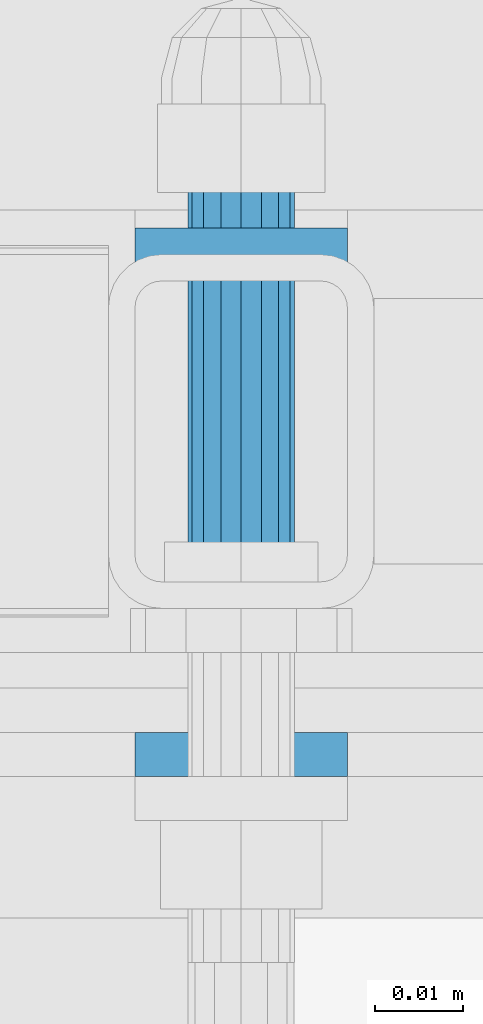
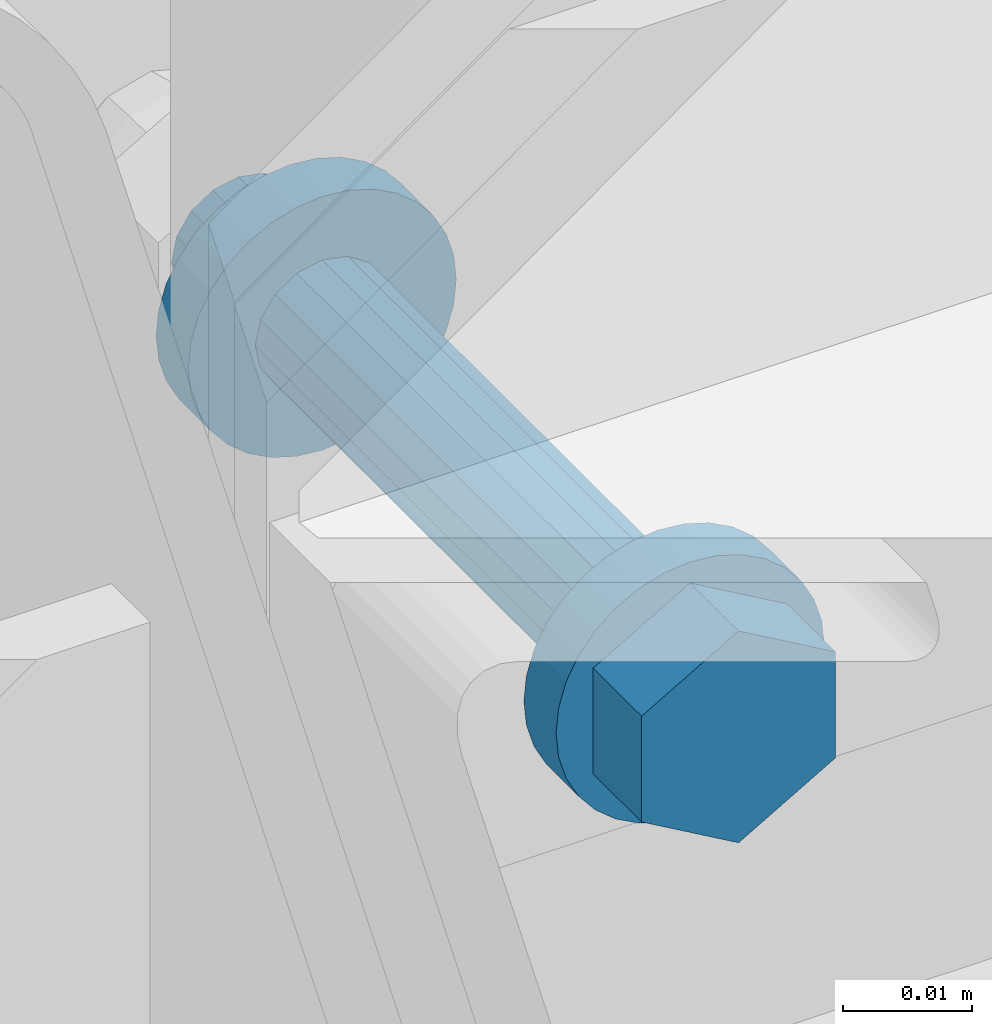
# One storey, part 54 of 116: 1 mechanical fastener.
"""IFC2X3 building model written with IfcOpenShell, lengths in millimetres."""

import ifcopenshell
import ifcopenshell.guid

model = None  # the IFC model being written
_history = None  # IfcOwnerHistory: only IFC2X3 demands one
_inside = {}  # id of a spatial element -> (the spatial element, [elements in it])
_under = {}  # id of a project, library or spatial element -> (it, [spatial elements below it])
_declared = {}  # id of a project -> (the project, [libraries it declares])
_typed = {}  # id of a type object -> (the type object, [elements of that type])
_made_of = {}  # id of a material, layer set ... -> (it, [elements and type objects made of it])


def new_model(schema):
    """Start an empty IFC model of exactly this schema.

    Asked for "IFC4X3", IfcOpenShell would pick the latest addendum, in which some entities
    have other attributes; the version numbers below select the first issue.
    IFC2X3 requires an IfcOwnerHistory on every rooted entity: one is made here for all.
    """
    global model, _history
    if schema == "IFC4X3":
        model = ifcopenshell.file(schema_version=(4, 3, 0, 0))
    else:
        model = ifcopenshell.file(schema=schema)
    _inside.clear()
    _under.clear()
    _declared.clear()
    _typed.clear()
    _made_of.clear()
    _history = None
    if model.schema == "IFC2X3":
        org = make("IfcOrganization", Name="unknown")
        user = make(
            "IfcPersonAndOrganization",
            ThePerson=make("IfcPerson", FamilyName="unknown"),
            TheOrganization=org,
        )
        app = make(
            "IfcApplication",
            ApplicationDeveloper=org,
            Version="unknown",
            ApplicationFullName="unknown",
            ApplicationIdentifier="unknown",
        )
        _history = make(
            "IfcOwnerHistory",
            OwningUser=user,
            OwningApplication=app,
            ChangeAction="ADDED",
            CreationDate=0,
        )
    return model


def make(cls, **values):
    """One entity of the class cls with the attributes given. An attribute that is None is left unset."""
    return model.create_entity(
        cls, **{name: value for name, value in values.items() if value is not None}
    )


def entity(cls, *values):
    """Any entity or typed value of the class cls, its attributes in the order of the schema. None: left unset."""
    e = model.create_entity(cls)
    for i, value in enumerate(values):
        if value is not None:
            e[i] = value
    return e


def rooted(cls, **values):
    """An entity with a GlobalId (a new one), such as an element, a storey or a relation."""
    return make(cls, GlobalId=ifcopenshell.guid.new(), OwnerHistory=_history, **values)


def si_unit(unit_type, name, prefix=None):
    """IfcSIUnit, for example si_unit("LENGTHUNIT", "METRE", prefix="MILLI")."""
    return make("IfcSIUnit", UnitType=unit_type, Prefix=prefix, Name=name)


def converted_unit(unit_type, name, factor, base, dimensions=None, offset=None):
    """IfcConversionBasedUnit, such as the inch: factor (a typed value) times the base unit."""
    return make(
        "IfcConversionBasedUnit"
        if offset is None
        else "IfcConversionBasedUnitWithOffset",
        ConversionOffset=offset,
        Dimensions=None
        if dimensions is None
        else entity("IfcDimensionalExponents", *dimensions),
        UnitType=unit_type,
        Name=name,
        ConversionFactor=make(
            "IfcMeasureWithUnit", ValueComponent=factor, UnitComponent=base
        ),
    )


def assignment(units):
    """IfcUnitAssignment: the units of a project."""
    return None if units is None else make("IfcUnitAssignment", Units=units)


def point(xyz):
    """IfcCartesianPoint."""
    return None if xyz is None else make("IfcCartesianPoint", Coordinates=xyz)


def direction(xyz):
    """IfcDirection."""
    return None if xyz is None else make("IfcDirection", DirectionRatios=xyz)


def frame(location, z_axis=None, x_axis=None):
    """IfcAxis2Placement3D, a coordinate frame: its origin and axes. An axis left out is left unset."""
    return make(
        "IfcAxis2Placement3D",
        Location=point(location),
        Axis=direction(z_axis),
        RefDirection=direction(x_axis),
    )


def origin_with_axes():
    """The frame at (0, 0, 0) with the z axis (0, 0, 1) and the x axis (1, 0, 0) written out."""
    return frame((0.0, 0.0, 0.0), z_axis=(0.0, 0.0, 1.0), x_axis=(1.0, 0.0, 0.0))


def place(relative_to, where):
    """IfcLocalPlacement: puts the frame where relative to a parent placement (None: the world)."""
    return make(
        "IfcLocalPlacement", PlacementRelTo=relative_to, RelativePlacement=where
    )


def context(
    kind, dimensions, precision=None, world=None, true_north=None, identifier=None
):
    """IfcGeometricRepresentationContext, for example the 3D "Model" context."""
    return make(
        "IfcGeometricRepresentationContext",
        ContextIdentifier=identifier,
        ContextType=kind,
        CoordinateSpaceDimension=dimensions,
        Precision=precision,
        WorldCoordinateSystem=world,
        TrueNorth=true_north,
    )


def project(units=None, contexts=None):
    """IfcProject with its units and contexts."""
    return rooted(
        "IfcProject",
        Name="project",
        RepresentationContexts=contexts,
        UnitsInContext=assignment(units),
    )


def spatial(cls, under=None, at=None, **own):
    """A site, building, storey or space (cls), placed at a placement, below another one or the project."""
    s = rooted(cls, ObjectPlacement=at, **own)
    if under is not None:
        _under.setdefault(under.id(), (under, []))[1].append(s)
    return s


def faces_of(points, faces, orient=None, outer=None):
    """IfcFace entities. A face is a list of loops; a loop is a list of indices into points, from 0.

    orient and outer hold one flag for each loop. By default every Orientation is true, the
    first loop of a face is its IfcFaceOuterBound and the others are IfcFaceBound.
    """
    made = []
    for i, loops in enumerate(faces):
        bounds = []
        for j, loop in enumerate(loops):
            is_outer = j == 0 if outer is None else outer[i][j]
            bounds.append(
                make(
                    "IfcFaceOuterBound" if is_outer else "IfcFaceBound",
                    Bound=make("IfcPolyLoop", Polygon=[points[k] for k in loop]),
                    Orientation=True if orient is None else orient[i][j],
                )
            )
        made.append(make("IfcFace", Bounds=bounds))
    return made


def faceted_brep(points, faces, orient=None, outer=None, voids=None):
    """IfcFacetedBrep: a solid bounded by flat faces; with voids (closed shells), ...WithVoids."""
    shared = [point(p) for p in points]
    hull = make("IfcClosedShell", CfsFaces=faces_of(shared, faces, orient, outer))
    if voids is None:
        return make("IfcFacetedBrep", Outer=hull)
    return make(
        "IfcFacetedBrepWithVoids",
        Outer=hull,
        Voids=[
            make(cls, CfsFaces=faces_of(shared, fs, o, b)) for cls, fs, o, b in voids
        ],
    )


def shape(context_of_items, identifier, shape_type, items):
    """IfcShapeRepresentation: the items that make up one representation, for example the "Body"."""
    return make(
        "IfcShapeRepresentation",
        ContextOfItems=context_of_items,
        RepresentationIdentifier=identifier,
        RepresentationType=shape_type,
        Items=items,
    )


def made_of(thing, what):
    """Note that an element or type object is made of a material, layer set ...; save() writes the relation."""
    if what is not None:
        _made_of.setdefault(what.id(), (what, []))[1].append(thing)
    return thing


def element(
    cls,
    number,
    at=None,
    inside=None,
    cuts=None,
    type_object=None,
    material=None,
    context=None,
    identifier="Body",
    shape_type=None,
    held_by="IfcProductDefinitionShape",
    body=None,
    shapes=None,
    **own,
):
    """One element of the class cls, such as IfcWall. Its Tag is "e" and its number.

    at: its placement. inside: the storey or other place that contains it. cuts: it is an
    opening in that element (IfcRelVoidsElement). A single representation is given by context,
    identifier, shape_type and body (its items); several are given by shapes. held_by: the class
    of the entity that holds the representations. save() writes the other relations.
    """
    e = rooted(cls, Tag="e%d" % number, ObjectPlacement=at, **own)
    if body is not None:
        shapes = [shape(context, identifier, shape_type, body)]
    if shapes is not None:
        e.Representation = make(held_by, Representations=shapes)
    if inside is not None:
        _inside.setdefault(inside.id(), (inside, []))[1].append(e)
    if cuts is not None:
        rooted(
            "IfcRelVoidsElement", RelatingBuildingElement=cuts, RelatedOpeningElement=e
        )
    if type_object is not None:
        _typed.setdefault(type_object.id(), (type_object, []))[1].append(e)
    return made_of(e, material)


def aggregate(whole, parts):
    """IfcRelAggregates: a whole, such as a stair, and the parts it consists of."""
    return rooted("IfcRelAggregates", RelatingObject=whole, RelatedObjects=parts)


def save(model, path):
    """Write the relations noted so far, then the file.

    IfcRelAggregates (storeys below a building ...), IfcRelContainedInSpatialStructure (elements
    in a storey), IfcRelDefinesByType, IfcRelAssociatesMaterial and IfcRelDeclares: one each for
    every whole, place, type object, material and project.
    """
    for whole, parts in _under.values():
        aggregate(whole, parts)
    for where, things in _inside.values():
        rooted(
            "IfcRelContainedInSpatialStructure",
            RelatedElements=things,
            RelatingStructure=where,
        )
    for kind, things in _typed.values():
        rooted("IfcRelDefinesByType", RelatedObjects=things, RelatingType=kind)
    for what, things in _made_of.values():
        rooted("IfcRelAssociatesMaterial", RelatedObjects=things, RelatingMaterial=what)
    for by, libraries in _declared.values():
        rooted("IfcRelDeclares", RelatingContext=by, RelatedDefinitions=libraries)
    model.write(path)


model = new_model("IFC2X3")

# Units and contexts
model_context = context("Model", 3, precision=1e-09, world=origin_with_axes())
ifc_project = project(units=[si_unit("LENGTHUNIT", "METRE", prefix="MILLI"), si_unit("AREAUNIT", "SQUARE_METRE"), si_unit("VOLUMEUNIT", "CUBIC_METRE"), converted_unit("PLANEANGLEUNIT", "DEGREE", entity("IfcPlaneAngleMeasure", 0.01745329), si_unit("PLANEANGLEUNIT", "RADIAN"), dimensions=[0, 0, 0, 0, 0, 0, 0])], contexts=[model_context])

# Site, building, storey
site_placement = place(None, origin_with_axes())
site = spatial("IfcSite", under=ifc_project, at=site_placement, Name="Site", CompositionType="ELEMENT")
building_placement = place(site_placement, origin_with_axes())
building = spatial("IfcBuilding", under=site, at=building_placement, Name="Struktur 1", CompositionType="ELEMENT")
storey_placement = place(building_placement, origin_with_axes())
storey = spatial("IfcBuildingStorey", under=building, at=storey_placement, Name="Default Storey", CompositionType="ELEMENT", Elevation=0.0)

# Mechanical fastener
mechanical_fastener_placement = place(None, origin_with_axes())
element("IfcMechanicalFastener", 1, at=mechanical_fastener_placement, inside=storey, ObjectType="-", NominalDiameter=12.0, NominalLength=70.0, context=model_context, shape_type="Brep", body=[
    faceted_brep([(58255.049134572, 10418.858883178, -68.0), (58255.049134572, 10421.358883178, -68.0), (58255.279711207, 10421.358883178, -70.341083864), (58255.279711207, 10418.858883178, -70.341083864), (58255.962580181, 10421.358883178, -72.592201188), (58255.962580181, 10418.858883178, -72.592201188), (58257.071499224, 10421.358883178, -74.666842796), (58257.071499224, 10418.858883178, -74.666842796), (58258.563853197, 10421.358883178, -76.485281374), (58258.563853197, 10418.858883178, -76.485281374), (58260.382291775, 10421.358883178, -77.977635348), (58260.382291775, 10418.858883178, -77.977635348), (58262.456933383, 10421.358883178, -79.08655439), (58262.456933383, 10418.858883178, -79.08655439), (58264.708050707, 10421.358883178, -79.769423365), (58264.708050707, 10418.858883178, -79.769423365), (58267.049134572, 10421.358883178, -80.0), (58267.049134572, 10418.858883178, -80.0), (58269.390218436, 10421.358883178, -79.769423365), (58269.390218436, 10418.858883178, -79.769423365), (58271.64133576, 10421.358883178, -79.08655439), (58271.64133576, 10418.858883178, -79.08655439), (58273.715977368, 10421.358883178, -77.977635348), (58273.715977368, 10418.858883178, -77.977635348), (58275.534415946, 10421.358883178, -76.485281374), (58275.534415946, 10418.858883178, -76.485281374), (58277.026769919, 10421.358883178, -74.666842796), (58277.026769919, 10418.858883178, -74.666842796), (58278.135688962, 10421.358883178, -72.592201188), (58278.135688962, 10418.858883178, -72.592201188), (58278.818557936, 10421.358883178, -70.341083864), (58278.818557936, 10418.858883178, -70.341083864), (58279.049134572, 10421.358883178, -68.0), (58279.049134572, 10418.858883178, -68.0), (58278.818557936, 10421.358883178, -65.658916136), (58278.818557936, 10418.858883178, -65.658916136), (58278.135688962, 10421.358883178, -63.407798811), (58278.135688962, 10418.858883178, -63.407798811), (58277.026769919, 10421.358883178, -61.333157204), (58277.026769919, 10418.858883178, -61.333157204), (58275.534415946, 10421.358883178, -59.514718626), (58275.534415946, 10418.858883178, -59.514718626), (58273.715977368, 10421.358883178, -58.022364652), (58273.715977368, 10418.858883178, -58.022364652), (58271.64133576, 10421.358883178, -56.91344561), (58271.64133576, 10418.858883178, -56.91344561), (58269.390218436, 10421.358883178, -56.230576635), (58269.390218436, 10418.858883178, -56.230576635), (58267.049134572, 10421.358883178, -56.0), (58267.049134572, 10418.858883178, -56.0), (58264.708050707, 10421.358883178, -56.230576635), (58264.708050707, 10418.858883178, -56.230576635), (58262.456933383, 10421.358883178, -56.91344561), (58262.456933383, 10418.858883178, -56.91344561), (58260.382291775, 10421.358883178, -58.022364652), (58260.382291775, 10418.858883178, -58.022364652), (58258.563853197, 10421.358883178, -59.514718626), (58258.563853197, 10418.858883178, -59.514718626), (58257.071499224, 10421.358883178, -61.333157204), (58257.071499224, 10418.858883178, -61.333157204), (58255.962580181, 10421.358883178, -63.407798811), (58255.962580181, 10418.858883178, -63.407798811), (58255.279711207, 10421.358883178, -65.658916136), (58255.279711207, 10418.858883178, -65.658916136)], [[[0, 1, 2, 3]], [[3, 2, 4, 5]], [[5, 4, 6, 7]], [[7, 6, 8, 9]], [[9, 8, 10, 11]], [[11, 10, 12, 13]], [[13, 12, 14, 15]], [[15, 14, 16, 17]], [[17, 16, 18, 19]], [[19, 18, 20, 21]], [[21, 20, 22, 23]], [[23, 22, 24, 25]], [[25, 24, 26, 27]], [[27, 26, 28, 29]], [[29, 28, 30, 31]], [[31, 30, 32, 33]], [[33, 32, 34, 35]], [[35, 34, 36, 37]], [[37, 36, 38, 39]], [[39, 38, 40, 41]], [[41, 40, 42, 43]], [[43, 42, 44, 45]], [[45, 44, 46, 47]], [[47, 46, 48, 49]], [[49, 48, 50, 51]], [[51, 50, 52, 53]], [[53, 52, 54, 55]], [[55, 54, 56, 57]], [[57, 56, 58, 59]], [[59, 58, 60, 61]], [[61, 60, 62, 63]], [[63, 62, 1, 0]], [[0, 3, 5, 7, 9, 11, 13, 15, 17, 19, 21, 23, 25, 27, 29, 31, 33, 35, 37, 39, 41, 43, 45, 47, 49, 51, 53, 55, 57, 59, 61, 63]], [[1, 62, 60, 58, 56, 54, 52, 50, 48, 46, 44, 42, 40, 38, 36, 34, 32, 30, 28, 26, 24, 22, 20, 18, 16, 14, 12, 10, 8, 6, 4, 2]]]),
    faceted_brep([(58255.049134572, 10416.358883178, -68.0), (58255.049134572, 10418.858883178, -68.0), (58255.279711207, 10418.858883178, -70.341083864), (58255.279711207, 10416.358883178, -70.341083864), (58255.962580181, 10418.858883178, -72.592201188), (58255.962580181, 10416.358883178, -72.592201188), (58257.071499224, 10418.858883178, -74.666842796), (58257.071499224, 10416.358883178, -74.666842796), (58258.563853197, 10418.858883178, -76.485281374), (58258.563853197, 10416.358883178, -76.485281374), (58260.382291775, 10418.858883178, -77.977635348), (58260.382291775, 10416.358883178, -77.977635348), (58262.456933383, 10418.858883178, -79.08655439), (58262.456933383, 10416.358883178, -79.08655439), (58264.708050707, 10418.858883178, -79.769423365), (58264.708050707, 10416.358883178, -79.769423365), (58267.049134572, 10418.858883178, -80.0), (58267.049134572, 10416.358883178, -80.0), (58269.390218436, 10418.858883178, -79.769423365), (58269.390218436, 10416.358883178, -79.769423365), (58271.64133576, 10418.858883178, -79.08655439), (58271.64133576, 10416.358883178, -79.08655439), (58273.715977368, 10418.858883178, -77.977635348), (58273.715977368, 10416.358883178, -77.977635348), (58275.534415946, 10418.858883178, -76.485281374), (58275.534415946, 10416.358883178, -76.485281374), (58277.026769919, 10418.858883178, -74.666842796), (58277.026769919, 10416.358883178, -74.666842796), (58278.135688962, 10418.858883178, -72.592201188), (58278.135688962, 10416.358883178, -72.592201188), (58278.818557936, 10418.858883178, -70.341083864), (58278.818557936, 10416.358883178, -70.341083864), (58279.049134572, 10418.858883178, -68.0), (58279.049134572, 10416.358883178, -68.0), (58278.818557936, 10418.858883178, -65.658916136), (58278.818557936, 10416.358883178, -65.658916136), (58278.135688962, 10418.858883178, -63.407798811), (58278.135688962, 10416.358883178, -63.407798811), (58277.026769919, 10418.858883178, -61.333157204), (58277.026769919, 10416.358883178, -61.333157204), (58275.534415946, 10418.858883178, -59.514718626), (58275.534415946, 10416.358883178, -59.514718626), (58273.715977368, 10418.858883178, -58.022364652), (58273.715977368, 10416.358883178, -58.022364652), (58271.64133576, 10418.858883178, -56.91344561), (58271.64133576, 10416.358883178, -56.91344561), (58269.390218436, 10418.858883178, -56.230576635), (58269.390218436, 10416.358883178, -56.230576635), (58267.049134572, 10418.858883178, -56.0), (58267.049134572, 10416.358883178, -56.0), (58264.708050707, 10418.858883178, -56.230576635), (58264.708050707, 10416.358883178, -56.230576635), (58262.456933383, 10418.858883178, -56.91344561), (58262.456933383, 10416.358883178, -56.91344561), (58260.382291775, 10418.858883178, -58.022364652), (58260.382291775, 10416.358883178, -58.022364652), (58258.563853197, 10418.858883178, -59.514718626), (58258.563853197, 10416.358883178, -59.514718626), (58257.071499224, 10418.858883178, -61.333157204), (58257.071499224, 10416.358883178, -61.333157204), (58255.962580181, 10418.858883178, -63.407798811), (58255.962580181, 10416.358883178, -63.407798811), (58255.279711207, 10418.858883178, -65.658916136), (58255.279711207, 10416.358883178, -65.658916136)], [[[0, 1, 2, 3]], [[3, 2, 4, 5]], [[5, 4, 6, 7]], [[7, 6, 8, 9]], [[9, 8, 10, 11]], [[11, 10, 12, 13]], [[13, 12, 14, 15]], [[15, 14, 16, 17]], [[17, 16, 18, 19]], [[19, 18, 20, 21]], [[21, 20, 22, 23]], [[23, 22, 24, 25]], [[25, 24, 26, 27]], [[27, 26, 28, 29]], [[29, 28, 30, 31]], [[31, 30, 32, 33]], [[33, 32, 34, 35]], [[35, 34, 36, 37]], [[37, 36, 38, 39]], [[39, 38, 40, 41]], [[41, 40, 42, 43]], [[43, 42, 44, 45]], [[45, 44, 46, 47]], [[47, 46, 48, 49]], [[49, 48, 50, 51]], [[51, 50, 52, 53]], [[53, 52, 54, 55]], [[55, 54, 56, 57]], [[57, 56, 58, 59]], [[59, 58, 60, 61]], [[61, 60, 62, 63]], [[63, 62, 1, 0]], [[0, 3, 5, 7, 9, 11, 13, 15, 17, 19, 21, 23, 25, 27, 29, 31, 33, 35, 37, 39, 41, 43, 45, 47, 49, 51, 53, 55, 57, 59, 61, 63]], [[1, 62, 60, 58, 56, 54, 52, 50, 48, 46, 44, 42, 40, 38, 36, 34, 32, 30, 28, 26, 24, 22, 20, 18, 16, 14, 12, 10, 8, 6, 4, 2]]]),
    faceted_brep([(58275.722378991, 10416.358883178, -73.0075), (58275.722378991, 10408.858883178, -73.0075), (58267.049134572, 10408.858883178, -78.015), (58267.049134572, 10416.358883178, -78.015), (58258.375890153, 10408.858883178, -73.0075), (58258.375890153, 10416.358883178, -73.0075), (58258.375890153, 10408.858883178, -62.9925), (58258.375890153, 10416.358883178, -62.9925), (58267.049134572, 10408.858883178, -57.985), (58267.049134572, 10416.358883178, -57.985), (58275.722378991, 10408.858883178, -62.9925), (58275.722378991, 10416.358883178, -62.9925)], [[[0, 1, 2, 3]], [[3, 2, 4, 5]], [[5, 4, 6, 7]], [[7, 6, 8, 9]], [[9, 8, 10, 11]], [[11, 10, 1, 0]], [[4, 2, 1, 10, 8, 6]], [[0, 3, 5, 7, 9, 11]]]),
    faceted_brep([(58261.049134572, 10421.358883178, -68.0), (58261.049134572, 10473.357883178, -68.0), (58261.505857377, 10473.357883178, -70.296100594), (58261.505857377, 10421.358883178, -70.296100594), (58262.806493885, 10473.357883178, -72.242640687), (58262.806493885, 10421.358883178, -72.242640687), (58264.753033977, 10473.357883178, -73.543277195), (58264.753033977, 10421.358883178, -73.543277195), (58267.049134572, 10473.357883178, -74.0), (58267.049134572, 10421.358883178, -74.0), (58269.345235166, 10473.357883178, -73.543277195), (58269.345235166, 10421.358883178, -73.543277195), (58271.291775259, 10473.357883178, -72.242640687), (58271.291775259, 10421.358883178, -72.242640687), (58272.592411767, 10473.357883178, -70.296100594), (58272.592411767, 10421.358883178, -70.296100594), (58273.049134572, 10473.357883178, -68.0), (58273.049134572, 10421.358883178, -68.0), (58272.592411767, 10473.357883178, -65.703899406), (58272.592411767, 10421.358883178, -65.703899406), (58271.291775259, 10473.357883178, -63.757359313), (58271.291775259, 10421.358883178, -63.757359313), (58269.345235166, 10473.357883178, -62.456722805), (58269.345235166, 10421.358883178, -62.456722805), (58267.049134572, 10473.357883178, -62.0), (58267.049134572, 10421.358883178, -62.0), (58264.753033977, 10473.357883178, -62.456722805), (58264.753033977, 10421.358883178, -62.456722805), (58262.806493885, 10473.357883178, -63.757359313), (58262.806493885, 10421.358883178, -63.757359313), (58261.505857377, 10473.357883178, -65.703899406), (58261.505857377, 10421.358883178, -65.703899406)], [[[0, 1, 2, 3]], [[3, 2, 4, 5]], [[5, 4, 6, 7]], [[7, 6, 8, 9]], [[9, 8, 10, 11]], [[11, 10, 12, 13]], [[13, 12, 14, 15]], [[15, 14, 16, 17]], [[17, 16, 18, 19]], [[19, 18, 20, 21]], [[21, 20, 22, 23]], [[23, 22, 24, 25]], [[25, 24, 26, 27]], [[27, 26, 28, 29]], [[29, 28, 30, 31]], [[31, 30, 1, 0]], [[0, 3, 5, 7, 9, 11, 13, 15, 17, 19, 21, 23, 25, 27, 29, 31]], [[1, 30, 28, 26, 24, 22, 20, 18, 16, 14, 12, 10, 8, 6, 4, 2]]]),
    faceted_brep([(58255.049134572, 10473.357883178, -68.0), (58255.049134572, 10475.857883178, -68.0), (58255.279711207, 10475.857883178, -70.341083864), (58255.279711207, 10473.357883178, -70.341083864), (58255.962580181, 10475.857883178, -72.592201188), (58255.962580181, 10473.357883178, -72.592201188), (58257.071499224, 10475.857883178, -74.666842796), (58257.071499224, 10473.357883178, -74.666842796), (58258.563853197, 10475.857883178, -76.485281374), (58258.563853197, 10473.357883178, -76.485281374), (58260.382291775, 10475.857883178, -77.977635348), (58260.382291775, 10473.357883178, -77.977635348), (58262.456933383, 10475.857883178, -79.08655439), (58262.456933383, 10473.357883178, -79.08655439), (58264.708050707, 10475.857883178, -79.769423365), (58264.708050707, 10473.357883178, -79.769423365), (58267.049134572, 10475.857883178, -80.0), (58267.049134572, 10473.357883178, -80.0), (58269.390218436, 10475.857883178, -79.769423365), (58269.390218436, 10473.357883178, -79.769423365), (58271.64133576, 10475.857883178, -79.08655439), (58271.64133576, 10473.357883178, -79.08655439), (58273.715977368, 10475.857883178, -77.977635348), (58273.715977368, 10473.357883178, -77.977635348), (58275.534415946, 10475.857883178, -76.485281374), (58275.534415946, 10473.357883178, -76.485281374), (58277.026769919, 10475.857883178, -74.666842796), (58277.026769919, 10473.357883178, -74.666842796), (58278.135688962, 10475.857883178, -72.592201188), (58278.135688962, 10473.357883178, -72.592201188), (58278.818557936, 10475.857883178, -70.341083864), (58278.818557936, 10473.357883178, -70.341083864), (58279.049134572, 10475.857883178, -68.0), (58279.049134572, 10473.357883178, -68.0), (58278.818557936, 10475.857883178, -65.658916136), (58278.818557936, 10473.357883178, -65.658916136), (58278.135688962, 10475.857883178, -63.407798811), (58278.135688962, 10473.357883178, -63.407798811), (58277.026769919, 10475.857883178, -61.333157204), (58277.026769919, 10473.357883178, -61.333157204), (58275.534415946, 10475.857883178, -59.514718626), (58275.534415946, 10473.357883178, -59.514718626), (58273.715977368, 10475.857883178, -58.022364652), (58273.715977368, 10473.357883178, -58.022364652), (58271.64133576, 10475.857883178, -56.91344561), (58271.64133576, 10473.357883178, -56.91344561), (58269.390218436, 10475.857883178, -56.230576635), (58269.390218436, 10473.357883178, -56.230576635), (58267.049134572, 10475.857883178, -56.0), (58267.049134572, 10473.357883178, -56.0), (58264.708050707, 10475.857883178, -56.230576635), (58264.708050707, 10473.357883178, -56.230576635), (58262.456933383, 10475.857883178, -56.91344561), (58262.456933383, 10473.357883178, -56.91344561), (58260.382291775, 10475.857883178, -58.022364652), (58260.382291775, 10473.357883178, -58.022364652), (58258.563853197, 10475.857883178, -59.514718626), (58258.563853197, 10473.357883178, -59.514718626), (58257.071499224, 10475.857883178, -61.333157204), (58257.071499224, 10473.357883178, -61.333157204), (58255.962580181, 10475.857883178, -63.407798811), (58255.962580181, 10473.357883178, -63.407798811), (58255.279711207, 10475.857883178, -65.658916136), (58255.279711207, 10473.357883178, -65.658916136)], [[[0, 1, 2, 3]], [[3, 2, 4, 5]], [[5, 4, 6, 7]], [[7, 6, 8, 9]], [[9, 8, 10, 11]], [[11, 10, 12, 13]], [[13, 12, 14, 15]], [[15, 14, 16, 17]], [[17, 16, 18, 19]], [[19, 18, 20, 21]], [[21, 20, 22, 23]], [[23, 22, 24, 25]], [[25, 24, 26, 27]], [[27, 26, 28, 29]], [[29, 28, 30, 31]], [[31, 30, 32, 33]], [[33, 32, 34, 35]], [[35, 34, 36, 37]], [[37, 36, 38, 39]], [[39, 38, 40, 41]], [[41, 40, 42, 43]], [[43, 42, 44, 45]], [[45, 44, 46, 47]], [[47, 46, 48, 49]], [[49, 48, 50, 51]], [[51, 50, 52, 53]], [[53, 52, 54, 55]], [[55, 54, 56, 57]], [[57, 56, 58, 59]], [[59, 58, 60, 61]], [[61, 60, 62, 63]], [[63, 62, 1, 0]], [[0, 3, 5, 7, 9, 11, 13, 15, 17, 19, 21, 23, 25, 27, 29, 31, 33, 35, 37, 39, 41, 43, 45, 47, 49, 51, 53, 55, 57, 59, 61, 63]], [[1, 62, 60, 58, 56, 54, 52, 50, 48, 46, 44, 42, 40, 38, 36, 34, 32, 30, 28, 26, 24, 22, 20, 18, 16, 14, 12, 10, 8, 6, 4, 2]]]),
    faceted_brep([(58255.049134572, 10475.857883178, -68.0), (58255.049134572, 10478.357883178, -68.0), (58255.279711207, 10478.357883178, -70.341083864), (58255.279711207, 10475.857883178, -70.341083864), (58255.962580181, 10478.357883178, -72.592201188), (58255.962580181, 10475.857883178, -72.592201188), (58257.071499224, 10478.357883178, -74.666842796), (58257.071499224, 10475.857883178, -74.666842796), (58258.563853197, 10478.357883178, -76.485281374), (58258.563853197, 10475.857883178, -76.485281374), (58260.382291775, 10478.357883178, -77.977635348), (58260.382291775, 10475.857883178, -77.977635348), (58262.456933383, 10478.357883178, -79.08655439), (58262.456933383, 10475.857883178, -79.08655439), (58264.708050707, 10478.357883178, -79.769423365), (58264.708050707, 10475.857883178, -79.769423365), (58267.049134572, 10478.357883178, -80.0), (58267.049134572, 10475.857883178, -80.0), (58269.390218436, 10478.357883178, -79.769423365), (58269.390218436, 10475.857883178, -79.769423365), (58271.64133576, 10478.357883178, -79.08655439), (58271.64133576, 10475.857883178, -79.08655439), (58273.715977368, 10478.357883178, -77.977635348), (58273.715977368, 10475.857883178, -77.977635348), (58275.534415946, 10478.357883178, -76.485281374), (58275.534415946, 10475.857883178, -76.485281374), (58277.026769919, 10478.357883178, -74.666842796), (58277.026769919, 10475.857883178, -74.666842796), (58278.135688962, 10478.357883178, -72.592201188), (58278.135688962, 10475.857883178, -72.592201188), (58278.818557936, 10478.357883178, -70.341083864), (58278.818557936, 10475.857883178, -70.341083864), (58279.049134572, 10478.357883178, -68.0), (58279.049134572, 10475.857883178, -68.0), (58278.818557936, 10478.357883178, -65.658916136), (58278.818557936, 10475.857883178, -65.658916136), (58278.135688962, 10478.357883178, -63.407798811), (58278.135688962, 10475.857883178, -63.407798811), (58277.026769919, 10478.357883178, -61.333157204), (58277.026769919, 10475.857883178, -61.333157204), (58275.534415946, 10478.357883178, -59.514718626), (58275.534415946, 10475.857883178, -59.514718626), (58273.715977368, 10478.357883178, -58.022364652), (58273.715977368, 10475.857883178, -58.022364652), (58271.64133576, 10478.357883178, -56.91344561), (58271.64133576, 10475.857883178, -56.91344561), (58269.390218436, 10478.357883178, -56.230576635), (58269.390218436, 10475.857883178, -56.230576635), (58267.049134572, 10478.357883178, -56.0), (58267.049134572, 10475.857883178, -56.0), (58264.708050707, 10478.357883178, -56.230576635), (58264.708050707, 10475.857883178, -56.230576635), (58262.456933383, 10478.357883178, -56.91344561), (58262.456933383, 10475.857883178, -56.91344561), (58260.382291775, 10478.357883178, -58.022364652), (58260.382291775, 10475.857883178, -58.022364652), (58258.563853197, 10478.357883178, -59.514718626), (58258.563853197, 10475.857883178, -59.514718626), (58257.071499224, 10478.357883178, -61.333157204), (58257.071499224, 10475.857883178, -61.333157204), (58255.962580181, 10478.357883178, -63.407798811), (58255.962580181, 10475.857883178, -63.407798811), (58255.279711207, 10478.357883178, -65.658916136), (58255.279711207, 10475.857883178, -65.658916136)], [[[0, 1, 2, 3]], [[3, 2, 4, 5]], [[5, 4, 6, 7]], [[7, 6, 8, 9]], [[9, 8, 10, 11]], [[11, 10, 12, 13]], [[13, 12, 14, 15]], [[15, 14, 16, 17]], [[17, 16, 18, 19]], [[19, 18, 20, 21]], [[21, 20, 22, 23]], [[23, 22, 24, 25]], [[25, 24, 26, 27]], [[27, 26, 28, 29]], [[29, 28, 30, 31]], [[31, 30, 32, 33]], [[33, 32, 34, 35]], [[35, 34, 36, 37]], [[37, 36, 38, 39]], [[39, 38, 40, 41]], [[41, 40, 42, 43]], [[43, 42, 44, 45]], [[45, 44, 46, 47]], [[47, 46, 48, 49]], [[49, 48, 50, 51]], [[51, 50, 52, 53]], [[53, 52, 54, 55]], [[55, 54, 56, 57]], [[57, 56, 58, 59]], [[59, 58, 60, 61]], [[61, 60, 62, 63]], [[63, 62, 1, 0]], [[0, 3, 5, 7, 9, 11, 13, 15, 17, 19, 21, 23, 25, 27, 29, 31, 33, 35, 37, 39, 41, 43, 45, 47, 49, 51, 53, 55, 57, 59, 61, 63]], [[1, 62, 60, 58, 56, 54, 52, 50, 48, 46, 44, 42, 40, 38, 36, 34, 32, 30, 28, 26, 24, 22, 20, 18, 16, 14, 12, 10, 8, 6, 4, 2]]]),
    faceted_brep([(58261.049134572, 10478.357883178, -68.0), (58261.049134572, 10486.358883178, -68.0), (58261.505857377, 10486.358883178, -70.296100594), (58261.505857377, 10478.357883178, -70.296100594), (58262.806493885, 10486.358883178, -72.242640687), (58262.806493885, 10478.357883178, -72.242640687), (58264.753033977, 10486.358883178, -73.543277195), (58264.753033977, 10478.357883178, -73.543277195), (58267.049134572, 10486.358883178, -74.0), (58267.049134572, 10478.357883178, -74.0), (58269.345235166, 10486.358883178, -73.543277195), (58269.345235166, 10478.357883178, -73.543277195), (58271.291775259, 10486.358883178, -72.242640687), (58271.291775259, 10478.357883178, -72.242640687), (58272.592411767, 10486.358883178, -70.296100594), (58272.592411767, 10478.357883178, -70.296100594), (58273.049134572, 10486.358883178, -68.0), (58273.049134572, 10478.357883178, -68.0), (58272.592411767, 10486.358883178, -65.703899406), (58272.592411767, 10478.357883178, -65.703899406), (58271.291775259, 10486.358883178, -63.757359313), (58271.291775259, 10478.357883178, -63.757359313), (58269.345235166, 10486.358883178, -62.456722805), (58269.345235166, 10478.357883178, -62.456722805), (58267.049134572, 10486.358883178, -62.0), (58267.049134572, 10478.357883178, -62.0), (58264.753033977, 10486.358883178, -62.456722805), (58264.753033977, 10478.357883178, -62.456722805), (58262.806493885, 10486.358883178, -63.757359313), (58262.806493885, 10478.357883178, -63.757359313), (58261.505857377, 10486.358883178, -65.703899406), (58261.505857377, 10478.357883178, -65.703899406)], [[[0, 1, 2, 3]], [[3, 2, 4, 5]], [[5, 4, 6, 7]], [[7, 6, 8, 9]], [[9, 8, 10, 11]], [[11, 10, 12, 13]], [[13, 12, 14, 15]], [[15, 14, 16, 17]], [[17, 16, 18, 19]], [[19, 18, 20, 21]], [[21, 20, 22, 23]], [[23, 22, 24, 25]], [[25, 24, 26, 27]], [[27, 26, 28, 29]], [[29, 28, 30, 31]], [[31, 30, 1, 0]], [[0, 3, 5, 7, 9, 11, 13, 15, 17, 19, 21, 23, 25, 27, 29, 31]], [[1, 30, 28, 26, 24, 22, 20, 18, 16, 14, 12, 10, 8, 6, 4, 2]]]),
])

save(model, "model.ifc")
